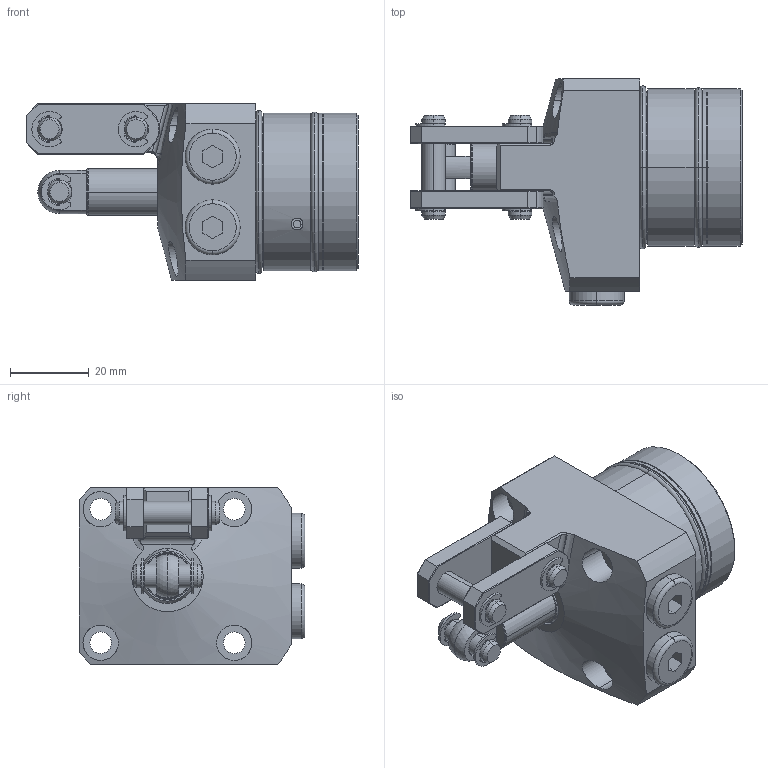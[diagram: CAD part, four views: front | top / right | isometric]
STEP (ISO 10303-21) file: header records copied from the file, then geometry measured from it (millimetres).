
FILE_DESCRIPTION(/* description */ (''),/* implementation_level */ '2;1');
FILE_NAME(/* name */ 'KTPW40-RJ.stp',/* time_stamp */ '2022-11-20T07:38:34+08:00',/* author */ (''),/* organization */ (''),/* preprocessor_version */ 'ST-DEVELOPER v16.7',/* originating_system */ 'SIEMENS PLM Software NX 12.0',/* authorisation */ '');
FILE_SCHEMA (('AP203_CONFIGURATION_CONTROLLED_3D_DESIGN_OF_MECHANICAL_PARTS_AND_ASSEMBLIES_MIM_LF { 1 0 10303 403 2 1 2}'));
Length unit declared in the file: millimetre
Products named in the file (10): KTPW40-RJ-01; KTPW40-RJ-06; KTPW40-RJ-04; KTPW40-RJ-02; KTPW40-RJ-03; KTPW40-RJ-05; KTPW40-RJ-08; KTPW40-RJ-09; KTPW40-RJ-07; LKW0401-CRJ_step
Assembly tree (18 placements, depth 2):
  LKW0401-CRJ_step
    KTPW40-RJ-07  x6
    KTPW40-RJ-09  x2
    KTPW40-RJ-08  x2
    KTPW40-RJ-05  x2
    KTPW40-RJ-03
    KTPW40-RJ-02
    KTPW40-RJ-04  x2
    KTPW40-RJ-06
    KTPW40-RJ-01
Bounding box: 84.5 x 57.5 x 45 mm (x, y, z)
Volume: 91385.1 mm3; surface area: 27777.3 mm2
Topology: 20 solids, 20 shells, 632 faces, 1466 edges, 907 vertices
Faces by surface type: cylinder 252, plane 190, torus 106, cone 74, bspline 8, sphere 2
Full cylindrical faces by diameter (mm): 40 x1
Entity records: 12134 total; most frequent: CARTESIAN_POINT 2713, DIRECTION 1855, ORIENTED_EDGE 1542, AXIS2_PLACEMENT_3D 779, EDGE_CURVE 771, VERTEX_POINT 468, CIRCLE 416, EDGE_LOOP 401
